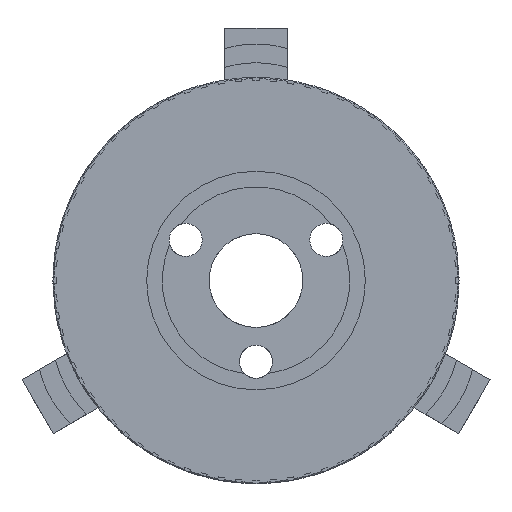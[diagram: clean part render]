
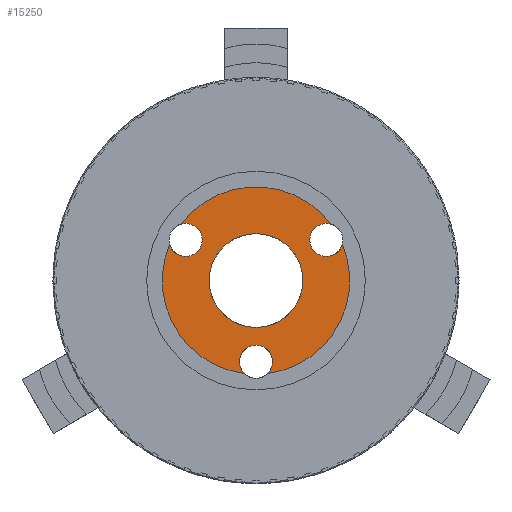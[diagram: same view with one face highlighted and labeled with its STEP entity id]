
A CAD part, front view. The second image highlights one B-rep face of the part: STEP entity #15250.
In plain terms, the highlighted planar face has unit normal (0, -1, 0).
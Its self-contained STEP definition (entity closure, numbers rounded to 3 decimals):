
#345 = CARTESIAN_POINT ( 'NONE',  ( 0., 2., 0. ) ) ;
#533 = CIRCLE ( 'NONE', #15397, 2.65 ) ;
#536 = CARTESIAN_POINT ( 'NONE',  ( -11.258, 2., 9.15 ) ) ;
#648 = VERTEX_POINT ( 'NONE', #5766 ) ;
#742 = DIRECTION ( 'NONE',  ( 0., 0., 1. ) ) ;
#780 = EDGE_CURVE ( 'NONE', #17010, #12460, #8281, .T. ) ;
#1117 = CIRCLE ( 'NONE', #2820, 2.65 ) ;
#1137 = AXIS2_PLACEMENT_3D ( 'NONE', #16499, #6279, #18232 ) ;
#1164 = CARTESIAN_POINT ( 'NONE',  ( 1.864, 2., -14.884 ) ) ;
#1412 = CARTESIAN_POINT ( 'NONE',  ( 11.958, 2., 9.056 ) ) ;
#1598 = AXIS2_PLACEMENT_3D ( 'NONE', #345, #12252, #2042 ) ;
#1644 = DIRECTION ( 'NONE',  ( 0., 0., 1. ) ) ;
#2042 = DIRECTION ( 'NONE',  ( 0., 0., 1. ) ) ;
#2272 = DIRECTION ( 'NONE',  ( 0., 1., 0. ) ) ;
#2335 = CARTESIAN_POINT ( 'NONE',  ( -11.958, 2., 9.056 ) ) ;
#2350 = EDGE_CURVE ( 'NONE', #5799, #648, #13840, .T. ) ;
#2608 = CIRCLE ( 'NONE', #7406, 2.65 ) ;
#2725 = DIRECTION ( 'NONE',  ( 0., -1., 0. ) ) ;
#2734 = DIRECTION ( 'NONE',  ( 1., 0., 0. ) ) ;
#2820 = AXIS2_PLACEMENT_3D ( 'NONE', #3208, #15131, #4933 ) ;
#2920 = CIRCLE ( 'NONE', #1137, 2.65 ) ;
#3208 = CARTESIAN_POINT ( 'NONE',  ( 11.258, 2., 6.5 ) ) ;
#3551 = AXIS2_PLACEMENT_3D ( 'NONE', #21186, #10952, #742 ) ;
#3869 = ORIENTED_EDGE ( 'NONE', *, *, #2350, .T. ) ;
#4433 = ORIENTED_EDGE ( 'NONE', *, *, #14429, .T. ) ;
#4646 = DIRECTION ( 'NONE',  ( 0., 0., 1. ) ) ;
#4796 = EDGE_CURVE ( 'NONE', #20407, #17466, #1117, .T. ) ;
#4861 = DIRECTION ( 'NONE',  ( 0., 1., 0. ) ) ;
#4933 = DIRECTION ( 'NONE',  ( 0., 0., 1. ) ) ;
#5129 = EDGE_CURVE ( 'NONE', #10016, #17412, #21387, .T. ) ;
#5239 = DIRECTION ( 'NONE',  ( 0., -1., 0. ) ) ;
#5471 = ORIENTED_EDGE ( 'NONE', *, *, #21514, .T. ) ;
#5573 = ORIENTED_EDGE ( 'NONE', *, *, #10277, .T. ) ;
#5766 = CARTESIAN_POINT ( 'NONE',  ( 13.822, 2., 5.828 ) ) ;
#5799 = VERTEX_POINT ( 'NONE', #1164 ) ;
#5819 = EDGE_CURVE ( 'NONE', #648, #20407, #2920, .T. ) ;
#6082 = EDGE_CURVE ( 'NONE', #13553, #10016, #20261, .T. ) ;
#6279 = DIRECTION ( 'NONE',  ( 0., 1., 0. ) ) ;
#6409 = AXIS2_PLACEMENT_3D ( 'NONE', #7089, #19035, #8809 ) ;
#6776 = CIRCLE ( 'NONE', #21530, 15. ) ;
#6841 = ORIENTED_EDGE ( 'NONE', *, *, #5129, .T. ) ;
#6999 = ORIENTED_EDGE ( 'NONE', *, *, #780, .T. ) ;
#7051 = EDGE_CURVE ( 'NONE', #12460, #5799, #2608, .T. ) ;
#7069 = VERTEX_POINT ( 'NONE', #13497 ) ;
#7089 = CARTESIAN_POINT ( 'NONE',  ( 0., 2., 0. ) ) ;
#7372 = DIRECTION ( 'NONE',  ( 0., 1., 0. ) ) ;
#7406 = AXIS2_PLACEMENT_3D ( 'NONE', #22101, #11845, #1644 ) ;
#7754 = EDGE_CURVE ( 'NONE', #17372, #7069, #18847, .T. ) ;
#7968 = CARTESIAN_POINT ( 'NONE',  ( 0., 2., 0. ) ) ;
#8263 = CARTESIAN_POINT ( 'NONE',  ( -11.258, 2., 3.85 ) ) ;
#8281 = CIRCLE ( 'NONE', #19679, 2.65 ) ;
#8341 = CARTESIAN_POINT ( 'NONE',  ( 0., 2., 0. ) ) ;
#8676 = AXIS2_PLACEMENT_3D ( 'NONE', #15064, #4861, #16796 ) ;
#8809 = DIRECTION ( 'NONE',  ( 0., 0., -1. ) ) ;
#9499 = PLANE ( 'NONE',  #18601 ) ;
#10016 = VERTEX_POINT ( 'NONE', #2335 ) ;
#10047 = DIRECTION ( 'NONE',  ( 0., 0., 1. ) ) ;
#10277 = EDGE_CURVE ( 'NONE', #17412, #16554, #15467, .T. ) ;
#10576 = ORIENTED_EDGE ( 'NONE', *, *, #6082, .T. ) ;
#10578 = CARTESIAN_POINT ( 'NONE',  ( 0., 2., 7.5 ) ) ;
#10952 = DIRECTION ( 'NONE',  ( 0., 1., 0. ) ) ;
#11018 = FACE_BOUND ( 'NONE', #22029, .T. ) ;
#11409 = AXIS2_PLACEMENT_3D ( 'NONE', #8341, #20271, #10047 ) ;
#11715 = ORIENTED_EDGE ( 'NONE', *, *, #5819, .T. ) ;
#11726 = ORIENTED_EDGE ( 'NONE', *, *, #4796, .T. ) ;
#11814 = VERTEX_POINT ( 'NONE', #21445 ) ;
#11840 = EDGE_LOOP ( 'NONE', ( #3869, #11715, #11726, #15341, #10576, #6841, #5573, #4433, #18698, #6999, #15453 ) ) ;
#11845 = DIRECTION ( 'NONE',  ( 0., 1., 0. ) ) ;
#12252 = DIRECTION ( 'NONE',  ( 0., 1., 0. ) ) ;
#12460 = VERTEX_POINT ( 'NONE', #13457 ) ;
#12478 = CARTESIAN_POINT ( 'NONE',  ( 11.258, 2., 6.5 ) ) ;
#12946 = CARTESIAN_POINT ( 'NONE',  ( 0., 2., 0. ) ) ;
#12951 = DIRECTION ( 'NONE',  ( 0., -1., 0. ) ) ;
#13457 = CARTESIAN_POINT ( 'NONE',  ( 0., 2., -10.35 ) ) ;
#13497 = CARTESIAN_POINT ( 'NONE',  ( 0., 2., -7.5 ) ) ;
#13553 = VERTEX_POINT ( 'NONE', #1412 ) ;
#13840 = CIRCLE ( 'NONE', #15996, 15. ) ;
#14195 = DIRECTION ( 'NONE',  ( 0., 0., 1. ) ) ;
#14429 = EDGE_CURVE ( 'NONE', #16554, #11814, #22037, .T. ) ;
#14644 = DIRECTION ( 'NONE',  ( 0., 0., -1. ) ) ;
#15027 = CARTESIAN_POINT ( 'NONE',  ( -1.864, 2., -14.884 ) ) ;
#15064 = CARTESIAN_POINT ( 'NONE',  ( -11.258, 2., 6.5 ) ) ;
#15131 = DIRECTION ( 'NONE',  ( 0., 1., 0. ) ) ;
#15250 = ADVANCED_FACE ( 'NONE', ( #11018, #15543 ), #9499, .T. ) ;
#15341 = ORIENTED_EDGE ( 'NONE', *, *, #20612, .T. ) ;
#15397 = AXIS2_PLACEMENT_3D ( 'NONE', #12478, #2272, #14195 ) ;
#15453 = ORIENTED_EDGE ( 'NONE', *, *, #7051, .T. ) ;
#15467 = CIRCLE ( 'NONE', #8676, 2.65 ) ;
#15543 = FACE_OUTER_BOUND ( 'NONE', #11840, .T. ) ;
#15996 = AXIS2_PLACEMENT_3D ( 'NONE', #7968, #5239, #21024 ) ;
#16438 = AXIS2_PLACEMENT_3D ( 'NONE', #17617, #7372, #19324 ) ;
#16499 = CARTESIAN_POINT ( 'NONE',  ( 11.258, 2., 6.5 ) ) ;
#16554 = VERTEX_POINT ( 'NONE', #8263 ) ;
#16747 = CARTESIAN_POINT ( 'NONE',  ( 0., 2., -13. ) ) ;
#16796 = DIRECTION ( 'NONE',  ( 0., 0., 1. ) ) ;
#16981 = CARTESIAN_POINT ( 'NONE',  ( 11.258, 2., 3.85 ) ) ;
#17010 = VERTEX_POINT ( 'NONE', #15027 ) ;
#17372 = VERTEX_POINT ( 'NONE', #10578 ) ;
#17412 = VERTEX_POINT ( 'NONE', #536 ) ;
#17466 = VERTEX_POINT ( 'NONE', #17686 ) ;
#17617 = CARTESIAN_POINT ( 'NONE',  ( -11.258, 2., 6.5 ) ) ;
#17686 = CARTESIAN_POINT ( 'NONE',  ( 11.258, 2., 9.15 ) ) ;
#18190 = EDGE_CURVE ( 'NONE', #11814, #17010, #6776, .T. ) ;
#18232 = DIRECTION ( 'NONE',  ( 0., 0., 1. ) ) ;
#18462 = DIRECTION ( 'NONE',  ( 0., 1., 0. ) ) ;
#18601 = AXIS2_PLACEMENT_3D ( 'NONE', #19718, #12951, #2734 ) ;
#18698 = ORIENTED_EDGE ( 'NONE', *, *, #18190, .T. ) ;
#18847 = CIRCLE ( 'NONE', #1598, 7.5 ) ;
#18916 = CIRCLE ( 'NONE', #11409, 7.5 ) ;
#19035 = DIRECTION ( 'NONE',  ( 0., -1., 0. ) ) ;
#19324 = DIRECTION ( 'NONE',  ( 0., 0., 1. ) ) ;
#19679 = AXIS2_PLACEMENT_3D ( 'NONE', #16747, #18462, #4646 ) ;
#19718 = CARTESIAN_POINT ( 'NONE',  ( 0., 2., -6.5 ) ) ;
#20261 = CIRCLE ( 'NONE', #6409, 15. ) ;
#20271 = DIRECTION ( 'NONE',  ( 0., 1., 0. ) ) ;
#20407 = VERTEX_POINT ( 'NONE', #16981 ) ;
#20612 = EDGE_CURVE ( 'NONE', #17466, #13553, #533, .T. ) ;
#20914 = ORIENTED_EDGE ( 'NONE', *, *, #7754, .T. ) ;
#21024 = DIRECTION ( 'NONE',  ( 0., 0., -1. ) ) ;
#21186 = CARTESIAN_POINT ( 'NONE',  ( -11.258, 2., 6.5 ) ) ;
#21387 = CIRCLE ( 'NONE', #3551, 2.65 ) ;
#21445 = CARTESIAN_POINT ( 'NONE',  ( -13.822, 2., 5.828 ) ) ;
#21514 = EDGE_CURVE ( 'NONE', #7069, #17372, #18916, .T. ) ;
#21530 = AXIS2_PLACEMENT_3D ( 'NONE', #12946, #2725, #14644 ) ;
#22029 = EDGE_LOOP ( 'NONE', ( #20914, #5471 ) ) ;
#22037 = CIRCLE ( 'NONE', #16438, 2.65 ) ;
#22101 = CARTESIAN_POINT ( 'NONE',  ( 0., 2., -13. ) ) ;
